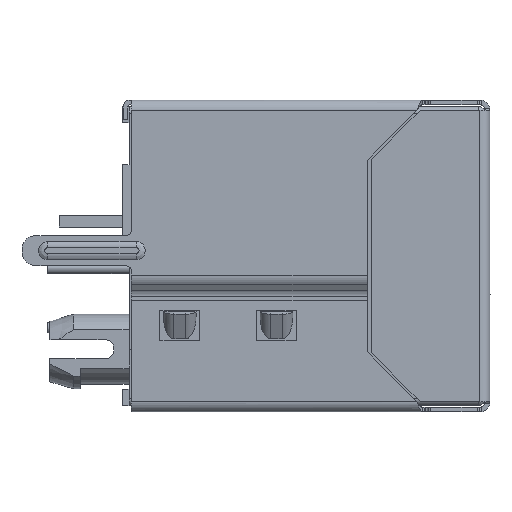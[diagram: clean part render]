
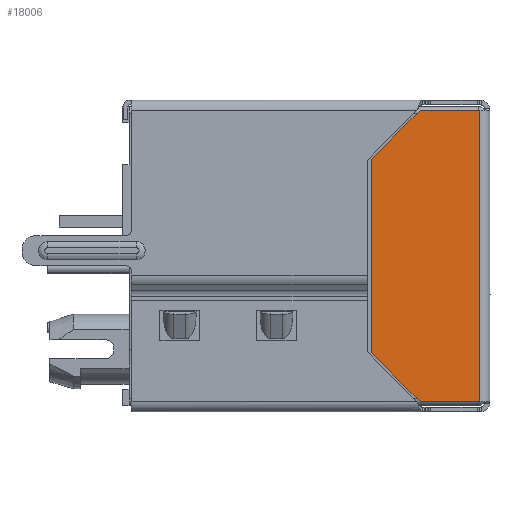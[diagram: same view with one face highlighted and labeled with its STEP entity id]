
A CAD part, left-side view. The second image highlights one B-rep face of the part: STEP entity #18006.
In plain terms, the highlighted planar face has unit normal (-1, 0, 0).
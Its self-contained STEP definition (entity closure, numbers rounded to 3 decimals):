
#16 = VERTEX_POINT ( 'NONE', #21 ) ;
#21 = CARTESIAN_POINT ( 'NONE',  ( 14.25, -9.6, -12.95 ) ) ;
#177 = CARTESIAN_POINT ( 'NONE',  ( 14.25, -4.95, -6.7 ) ) ;
#1279 = ORIENTED_EDGE ( 'NONE', *, *, #13733, .F. ) ;
#1606 = DIRECTION ( 'NONE',  ( 0., 0.707, 0.707 ) ) ;
#3089 = EDGE_CURVE ( 'NONE', #23375, #16, #9136, .T. ) ;
#3701 = ORIENTED_EDGE ( 'NONE', *, *, #3089, .F. ) ;
#4085 = VECTOR ( 'NONE', #19767, 1000. ) ;
#4161 = EDGE_CURVE ( 'NONE', #6382, #18897, #12795, .T. ) ;
#4247 = ORIENTED_EDGE ( 'NONE', *, *, #23933, .F. ) ;
#4922 = VECTOR ( 'NONE', #8521, 1000. ) ;
#5089 = LINE ( 'NONE', #177, #19892 ) ;
#5511 = CARTESIAN_POINT ( 'NONE',  ( 14.25, -4.95, -2.55 ) ) ;
#6382 = VERTEX_POINT ( 'NONE', #12176 ) ;
#6460 = CARTESIAN_POINT ( 'NONE',  ( 14.25, -4.95, -2.55 ) ) ;
#6745 = CARTESIAN_POINT ( 'NONE',  ( 14.25, -4.95, -10.85 ) ) ;
#7142 = DIRECTION ( 'NONE',  ( 0., 0., -1. ) ) ;
#8521 = DIRECTION ( 'NONE',  ( 0., -0.707, 0.707 ) ) ;
#9136 = LINE ( 'NONE', #19195, #18558 ) ;
#9367 = PLANE ( 'NONE',  #24366 ) ;
#9963 = CARTESIAN_POINT ( 'NONE',  ( 14.25, -7.275, -12.95 ) ) ;
#10713 = LINE ( 'NONE', #9963, #20671 ) ;
#11417 = DIRECTION ( 'NONE',  ( 1., 0., 0. ) ) ;
#11428 = VERTEX_POINT ( 'NONE', #5511 ) ;
#11698 = CARTESIAN_POINT ( 'NONE',  ( 14.25, -9.6, -0.45 ) ) ;
#12176 = CARTESIAN_POINT ( 'NONE',  ( 14.25, -7.05, -12.95 ) ) ;
#12795 = LINE ( 'NONE', #17783, #23275 ) ;
#13733 = EDGE_CURVE ( 'NONE', #16, #6382, #10713, .T. ) ;
#13873 = VERTEX_POINT ( 'NONE', #16485 ) ;
#13980 = ORIENTED_EDGE ( 'NONE', *, *, #22138, .F. ) ;
#14431 = EDGE_LOOP ( 'NONE', ( #4247, #18565, #13980, #25377, #1279, #3701 ) ) ;
#15573 = EDGE_CURVE ( 'NONE', #11428, #13873, #15734, .T. ) ;
#15734 = LINE ( 'NONE', #6460, #4922 ) ;
#16485 = CARTESIAN_POINT ( 'NONE',  ( 14.25, -7.05, -0.45 ) ) ;
#16508 = FACE_OUTER_BOUND ( 'NONE', #14431, .T. ) ;
#17783 = CARTESIAN_POINT ( 'NONE',  ( 14.25, -7.05, -12.95 ) ) ;
#17821 = CARTESIAN_POINT ( 'NONE',  ( 14.25, -7.275, -0.45 ) ) ;
#18006 = ADVANCED_FACE ( 'NONE', ( #16508 ), #9367, .F. ) ;
#18558 = VECTOR ( 'NONE', #7142, 1000. ) ;
#18565 = ORIENTED_EDGE ( 'NONE', *, *, #15573, .F. ) ;
#18897 = VERTEX_POINT ( 'NONE', #6745 ) ;
#19195 = CARTESIAN_POINT ( 'NONE',  ( 14.25, -9.6, -13.055 ) ) ;
#19767 = DIRECTION ( 'NONE',  ( 0., -1., 0. ) ) ;
#19892 = VECTOR ( 'NONE', #20233, 1000. ) ;
#19939 = DIRECTION ( 'NONE',  ( 0., 1., 0. ) ) ;
#20146 = LINE ( 'NONE', #17821, #4085 ) ;
#20233 = DIRECTION ( 'NONE',  ( 0., 0., 1. ) ) ;
#20671 = VECTOR ( 'NONE', #19939, 1000. ) ;
#21122 = CARTESIAN_POINT ( 'NONE',  ( 14.25, -7.275, -6.7 ) ) ;
#22138 = EDGE_CURVE ( 'NONE', #18897, #11428, #5089, .T. ) ;
#23275 = VECTOR ( 'NONE', #1606, 1000. ) ;
#23375 = VERTEX_POINT ( 'NONE', #11698 ) ;
#23933 = EDGE_CURVE ( 'NONE', #13873, #23375, #20146, .T. ) ;
#24366 = AXIS2_PLACEMENT_3D ( 'NONE', #21122, #11417, #25207 ) ;
#25207 = DIRECTION ( 'NONE',  ( 0., 0., -1. ) ) ;
#25377 = ORIENTED_EDGE ( 'NONE', *, *, #4161, .F. ) ;
